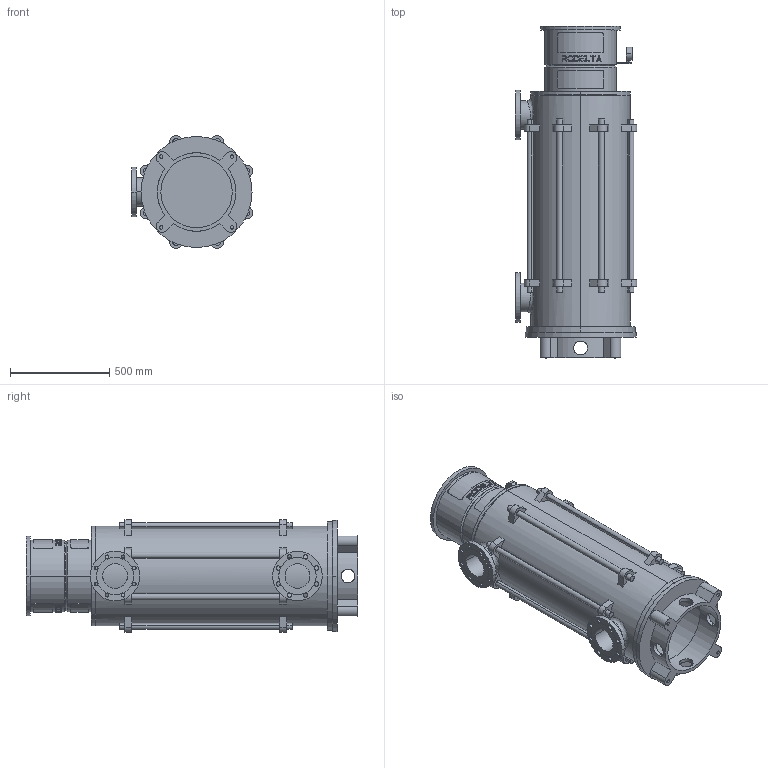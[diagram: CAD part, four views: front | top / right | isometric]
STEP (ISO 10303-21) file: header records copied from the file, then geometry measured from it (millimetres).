
FILE_DESCRIPTION((''),'2;1');
FILE_NAME('LS5_7TR_0GR_TOT_30KW','2023-08-08T',('Lyritlocal'),(''),'PRO/ENGINEER BY PARAMETRIC TECHNOLOGY CORPORATION, 2016360','PRO/ENGINEER BY PARAMETRIC TECHNOLOGY CORPORATION, 2016360','');
FILE_SCHEMA(('CONFIG_CONTROL_DESIGN'));
Length unit declared in the file: millimetre
Products named in the file (1): LS5_7TR_0GR_TOT_30KW
Bounding box: 614.04 x 1674 x 568.08 mm (x, y, z)
Volume: 45350484.8 mm3; surface area: 6810563.2 mm2
Topology: 3 solids, 7 shells, 672 faces, 1747 edges, 1158 vertices
Faces by surface type: plane 414, cylinder 242, cone 12, bspline 4
Entity records: 21880 total; most frequent: CARTESIAN_POINT 5436, ORIENTED_EDGE 3478, DIRECTION 3269, EDGE_CURVE 1747, AXIS2_PLACEMENT_3D 1241, VERTEX_POINT 1158, EDGE_LOOP 809, VECTOR 787
